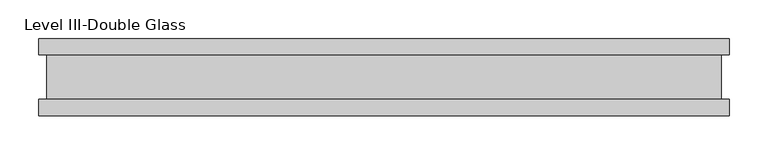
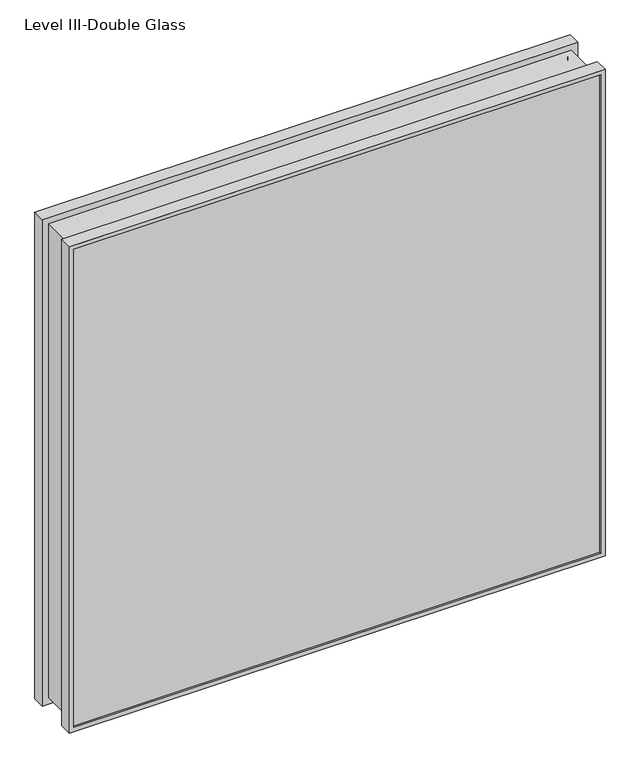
"""IFC4 building model written with IfcOpenShell, lengths in millimetres: proxy geometry, Panel-Fascia-Teknion-Altos-Double_Glass : Level III-Double Glass."""

from ifc_helpers import new_model, si_unit, frame, origin, place, context, project, spatial, polyline, ellipse_curve, outline, extrude, source, transform, mapped, element, save
from ifc_brep_helpers import plane_surface, cylinder_surface, advanced_brep


def level_iii_double_glass_eeb2d2af(model_context):
    return source(origin(), model_context, "Body", "SolidModel", [
        advanced_brep(
        [(447.6253906, -50.0558594, 862.965), (447.6253906, -50.0558594, 3.175), (447.6253906, -28.2698798, 3.175), (447.6253906, -28.2698798, 862.965), (440.1901828, -47.1322551, 855.5297922), (440.1901828, -47.1322551, 10.6102078), (440.1901828, -50.0558594, 10.6102078), (440.1901828, -50.0558594, 855.5297922), (445.4728643, -41.1791301, 860.8124737), (445.4728643, -41.1791301, 5.3275263), (445.4728643, -47.1322551, 5.3275263), (445.4728643, -47.1322551, 860.8124737), (439.6679752, 40.9277344, 855.0075845), (439.6679752, 40.9277344, 11.1324155), (439.6679752, -41.1791301, 11.1324155), (439.6679752, -41.1791301, 855.0075845), (445.4728643, 46.8808594, 860.8124737), (445.4728643, 46.8808594, 5.3275263), (445.4728643, 40.9277344, 5.3275263), (445.4728643, 40.9277344, 860.8124737), (440.1901828, 50.0558594, 855.5297922), (440.1901828, 50.0558594, 10.6102078), (440.1901828, 46.8808594, 10.6102078), (440.1901828, 46.8808594, 855.5297922), (447.6253906, 28.8801202, 862.965), (447.6253906, 28.8801202, 3.175), (447.6253906, 50.0558594, 3.175), (447.6253906, 50.0558594, 862.965), (436.7735493, -28.2698798, 852.1131586), (436.7735493, -28.2698798, 14.0268414), (436.7735493, 28.8801202, 14.0268414), (436.7735493, 28.8801202, 852.1131586), (-447.6253906, -50.0558594, 3.175), (-447.6253906, -28.2698798, 3.175), (-440.1901828, -47.1322551, 10.6102078), (-440.1901828, -50.0558594, 10.6102078), (-445.4728643, -41.1791301, 5.3275263), (-445.4728643, -47.1322551, 5.3275263), (-439.6679752, 40.9277344, 11.1324155), (-439.6679752, -41.1791301, 11.1324155), (-445.4728643, 46.8808594, 5.3275263), (-445.4728643, 40.9277344, 5.3275263), (-440.1901828, 50.0558594, 10.6102078), (-440.1901828, 46.8808594, 10.6102078), (-447.6253906, 28.8801202, 3.175), (-447.6253906, 50.0558594, 3.175), (-436.7735493, -28.2698798, 14.0268414), (-436.7735493, 28.8801202, 14.0268414), (-447.6253906, -50.0558594, 862.965), (-447.6253906, -28.2698798, 862.965), (-440.1901828, -47.1322551, 855.5297922), (-440.1901828, -50.0558594, 855.5297922), (-445.4728643, -41.1791301, 860.8124737), (-445.4728643, -47.1322551, 860.8124737), (-439.6679752, 40.9277344, 855.0075845), (-439.6679752, -41.1791301, 855.0075845), (-445.4728643, 46.8808594, 860.8124737), (-445.4728643, 40.9277344, 860.8124737), (-440.1901828, 50.0558594, 855.5297922), (-440.1901828, 46.8808594, 855.5297922), (-447.6253906, 28.8801202, 862.965), (-447.6253906, 50.0558594, 862.965), (-436.7735493, -28.2698798, 852.1131586), (-436.7735493, 28.8801202, 852.1131586)],
        [
            (0, 1),
            (1, 2),
            (2, 3),
            (3, 0),
            (4, 5),
            (5, 6),
            (6, 7),
            (7, 4),
            (8, 9),
            (9, 10),
            (10, 11),
            (11, 8),
            (12, 13),
            (13, 14, ellipse_curve(frame((479.0538175, -0.1256979, -28.2534268), z_axis=(0.7071067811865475, 0.0, 0.7071067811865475), x_axis=(-0.7071067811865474, 0.0, 0.7071067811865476)), 80.4565581, 56.8913778)),
            (14, 15),
            (15, 12, ellipse_curve(frame((479.0538175, -0.1256979, 894.3934268), z_axis=(0.7071067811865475, 0.0, -0.7071067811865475), x_axis=(0.7071067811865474, 0.0, 0.7071067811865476)), 80.4565581, 56.8913778)),
            (16, 17),
            (17, 18),
            (18, 19),
            (19, 16),
            (20, 21),
            (21, 22),
            (22, 23),
            (23, 20),
            (24, 25),
            (25, 26),
            (26, 27),
            (27, 24),
            (28, 29),
            (29, 30),
            (30, 31),
            (31, 28),
            (1, 32),
            (32, 33),
            (33, 2),
            (5, 34),
            (34, 35),
            (35, 6),
            (9, 36),
            (36, 37),
            (37, 10),
            (13, 38),
            (38, 39, ellipse_curve(frame((-479.0538175, -0.1256979, -28.2534268), z_axis=(0.7071067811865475, 0.0, -0.7071067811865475), x_axis=(0.7071067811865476, 0.0, 0.7071067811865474)), 80.4565581, 56.8913778)),
            (39, 14),
            (17, 40),
            (40, 41),
            (41, 18),
            (21, 42),
            (42, 43),
            (43, 22),
            (25, 44),
            (44, 45),
            (45, 26),
            (29, 46),
            (46, 47),
            (47, 30),
            (32, 48),
            (48, 49),
            (49, 33),
            (34, 50),
            (50, 51),
            (51, 35),
            (36, 52),
            (52, 53),
            (53, 37),
            (38, 54),
            (54, 55, ellipse_curve(frame((-479.0538175, -0.1256979, 894.3934268), z_axis=(-0.7071067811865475, 0.0, -0.7071067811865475), x_axis=(0.7071067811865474, 0.0, -0.7071067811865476)), 80.4565581, 56.8913778)),
            (55, 39),
            (40, 56),
            (56, 57),
            (57, 41),
            (42, 58),
            (58, 59),
            (59, 43),
            (44, 60),
            (60, 61),
            (61, 45),
            (46, 62),
            (62, 63),
            (63, 47),
            (48, 0),
            (3, 49),
            (51, 7),
            (50, 4),
            (53, 11),
            (52, 8),
            (55, 15),
            (54, 12),
            (57, 19),
            (56, 16),
            (59, 23),
            (58, 20),
            (61, 27),
            (60, 24),
            (63, 31),
            (62, 28),
        ],
        [
            plane_surface(frame((447.6253906, -28.2698798, 862.965), z_axis=(1.0, 0.0, 0.0), x_axis=(0.0, 0.0, -1.0))),
            plane_surface(frame((440.1901828, -50.0558594, 855.5297922), z_axis=(-1.0, 0.0, 0.0), x_axis=(0.0, 0.0, -1.0))),
            plane_surface(frame((445.4728643, -47.1322551, 860.8124737), z_axis=(-1.0, 0.0, 0.0), x_axis=(0.0, 0.0, -1.0))),
            cylinder_surface(frame((479.0538175, -0.1256979, 862.965), z_axis=(0.0, 0.0, 1.0), x_axis=(1.0, 0.0, 0.0)), 56.8913778),
            plane_surface(frame((445.4728643, 40.9277344, 860.8124737), z_axis=(-1.0, 0.0, 0.0), x_axis=(0.0, 0.0, -1.0))),
            plane_surface(frame((440.1901828, 46.8808594, 855.5297922), z_axis=(-1.0, 0.0, 0.0), x_axis=(0.0, 0.0, -1.0))),
            plane_surface(frame((447.6253906, 50.0558594, 862.965), z_axis=(1.0, 0.0, 0.0), x_axis=(0.0, 0.0, -1.0))),
            plane_surface(frame((436.7735493, 28.8801202, 852.1131586), z_axis=(1.0, 0.0, 0.0), x_axis=(0.0, 0.0, -1.0))),
            plane_surface(frame((447.6253906, -28.2698798, 3.175), z_axis=(0.0, 0.0, -1.0), x_axis=(-1.0, 0.0, 0.0))),
            plane_surface(frame((440.1901828, -50.0558594, 10.6102078), z_axis=(0.0, 0.0, 1.0), x_axis=(-1.0, 0.0, 0.0))),
            plane_surface(frame((445.4728643, -47.1322551, 5.3275263), z_axis=(0.0, 0.0, 1.0), x_axis=(-1.0, 0.0, 0.0))),
            cylinder_surface(frame((447.6253906, -0.1256979, -28.2534268), z_axis=(1.0, 0.0, 0.0), x_axis=(0.0, 0.0, -1.0)), 56.8913778),
            plane_surface(frame((445.4728643, 40.9277344, 5.3275263), z_axis=(0.0, 0.0, 1.0), x_axis=(-1.0, 0.0, 0.0))),
            plane_surface(frame((440.1901828, 46.8808594, 10.6102078), z_axis=(0.0, 0.0, 1.0), x_axis=(-1.0, 0.0, 0.0))),
            plane_surface(frame((447.6253906, 50.0558594, 3.175), z_axis=(0.0, 0.0, -1.0), x_axis=(-1.0, 0.0, 0.0))),
            plane_surface(frame((436.7735493, 28.8801202, 14.0268414), z_axis=(0.0, 0.0, -1.0), x_axis=(-1.0, 0.0, 0.0))),
            plane_surface(frame((-447.6253906, -28.2698798, 3.175), z_axis=(-1.0, 0.0, 0.0), x_axis=(0.0, 0.0, 1.0))),
            plane_surface(frame((-440.1901828, -50.0558594, 10.6102078), z_axis=(1.0, 0.0, 0.0), x_axis=(0.0, 0.0, 1.0))),
            plane_surface(frame((-445.4728643, -47.1322551, 5.3275263), z_axis=(1.0, 0.0, 0.0), x_axis=(0.0, 0.0, 1.0))),
            cylinder_surface(frame((-479.0538175, -0.1256979, 3.175), z_axis=(0.0, 0.0, -1.0), x_axis=(-1.0, 0.0, 0.0)), 56.8913778),
            plane_surface(frame((-445.4728643, 40.9277344, 5.3275263), z_axis=(1.0, 0.0, 0.0), x_axis=(0.0, 0.0, 1.0))),
            plane_surface(frame((-440.1901828, 46.8808594, 10.6102078), z_axis=(1.0, 0.0, 0.0), x_axis=(0.0, 0.0, 1.0))),
            plane_surface(frame((-447.6253906, 50.0558594, 3.175), z_axis=(-1.0, 0.0, 0.0), x_axis=(0.0, 0.0, 1.0))),
            plane_surface(frame((-436.7735493, 28.8801202, 14.0268414), z_axis=(-1.0, 0.0, 0.0), x_axis=(0.0, 0.0, 1.0))),
            plane_surface(frame((-447.6253906, -28.2698798, 862.965), z_axis=(0.0, 0.0, 1.0), x_axis=(1.0, 0.0, 0.0))),
            plane_surface(frame((-447.6253906, -50.0558594, 862.965), z_axis=(0.0, -1.0, 0.0), x_axis=(1.0, 0.0, 0.0))),
            plane_surface(frame((-440.1901828, -50.0558594, 855.5297922), z_axis=(0.0, 0.0, -1.0), x_axis=(1.0, 0.0, 0.0))),
            plane_surface(frame((-440.1901828, -47.1322551, 855.5297922), z_axis=(0.0, 1.0, 0.0), x_axis=(1.0, 0.0, 0.0))),
            plane_surface(frame((-445.4728643, -47.1322551, 860.8124737), z_axis=(0.0, 0.0, -1.0), x_axis=(1.0, 0.0, 0.0))),
            plane_surface(frame((-445.4728643, -41.1791301, 860.8124737), z_axis=(0.0, -1.0, 0.0), x_axis=(1.0, 0.0, 0.0))),
            cylinder_surface(frame((-447.6253906, -0.1256979, 894.3934268), z_axis=(-1.0, 0.0, 0.0), x_axis=(0.0, 0.0, 1.0)), 56.8913778),
            plane_surface(frame((-439.6679752, 40.9277344, 855.0075845), z_axis=(0.0, 1.0, 0.0), x_axis=(1.0, 0.0, 0.0))),
            plane_surface(frame((-445.4728643, 40.9277344, 860.8124737), z_axis=(0.0, 0.0, -1.0), x_axis=(1.0, 0.0, 0.0))),
            plane_surface(frame((-445.4728643, 46.8808594, 860.8124737), z_axis=(0.0, -1.0, 0.0), x_axis=(1.0, 0.0, 0.0))),
            plane_surface(frame((-440.1901828, 46.8808594, 855.5297922), z_axis=(0.0, 0.0, -1.0), x_axis=(1.0, 0.0, 0.0))),
            plane_surface(frame((-440.1901828, 50.0558594, 855.5297922), z_axis=(0.0, 1.0, 0.0), x_axis=(1.0, 0.0, 0.0))),
            plane_surface(frame((-447.6253906, 50.0558594, 862.965), z_axis=(0.0, 0.0, 1.0), x_axis=(1.0, 0.0, 0.0))),
            plane_surface(frame((-447.6253906, 28.8801202, 862.965), z_axis=(0.0, -1.0, 0.0), x_axis=(1.0, 0.0, 0.0))),
            plane_surface(frame((-436.7735493, 28.8801202, 852.1131586), z_axis=(0.0, 0.0, 1.0), x_axis=(1.0, 0.0, 0.0))),
            plane_surface(frame((-436.7735493, -28.2698798, 852.1131586), z_axis=(0.0, 1.0, 0.0), x_axis=(1.0, 0.0, 0.0))),
        ],
        [
            (0, [[1, 2, 3, 4]]),
            (1, [[5, 6, 7, 8]]),
            (2, [[9, 10, 11, 12]]),
            (3, [[13, 14, 15, 16]]),
            (4, [[17, 18, 19, 20]]),
            (5, [[21, 22, 23, 24]]),
            (6, [[25, 26, 27, 28]]),
            (7, [[29, 30, 31, 32]]),
            (8, [[33, 34, 35, -2]]),
            (9, [[36, 37, 38, -6]]),
            (10, [[39, 40, 41, -10]]),
            (11, [[42, 43, 44, -14]]),
            (12, [[45, 46, 47, -18]]),
            (13, [[48, 49, 50, -22]]),
            (14, [[51, 52, 53, -26]]),
            (15, [[54, 55, 56, -30]]),
            (16, [[57, 58, 59, -34]]),
            (17, [[60, 61, 62, -37]]),
            (18, [[63, 64, 65, -40]]),
            (19, [[66, 67, 68, -43]]),
            (20, [[69, 70, 71, -46]]),
            (21, [[72, 73, 74, -49]]),
            (22, [[75, 76, 77, -52]]),
            (23, [[78, 79, 80, -55]]),
            (24, [[81, -4, 82, -58]]),
            (25, [[-1, -81, -57, -33], [-7, -38, -62, 83]]),
            (26, [[84, -8, -83, -61]]),
            (27, [[-11, -41, -65, 85], [-5, -84, -60, -36]]),
            (28, [[86, -12, -85, -64]]),
            (29, [[-9, -86, -63, -39], [-15, -44, -68, 87]]),
            (30, [[88, -16, -87, -67]]),
            (31, [[-19, -47, -71, 89], [-13, -88, -66, -42]]),
            (32, [[90, -20, -89, -70]]),
            (33, [[-17, -90, -69, -45], [-23, -50, -74, 91]]),
            (34, [[92, -24, -91, -73]]),
            (35, [[-27, -53, -77, 93], [-21, -92, -72, -48]]),
            (36, [[94, -28, -93, -76]]),
            (37, [[-25, -94, -75, -51], [-31, -56, -80, 95]]),
            (38, [[96, -32, -95, -79]]),
            (39, [[-3, -35, -59, -82], [-29, -96, -78, -54]]),
        ],
    ),
        extrude(outline(polyline([(445.4728643, 40.9277344), (-445.4728643, 40.9277344), (-445.4728643, 46.8808594), (445.4728643, 46.8808594), (445.4728643, 40.9277344)])), frame((0.0, 0.0, 5.3275263), z_axis=(0.0, 0.0, 1.0), x_axis=(1.0, 0.0, 0.0)), (0.0, 0.0, 1.0), 854.990928),
        extrude(outline(polyline([(445.4728643, -41.1791301), (445.4728643, -47.1322551), (-445.4728643, -47.1322551), (-445.4728643, -41.1791301), (445.4728643, -41.1791301)])), frame((0.0, 0.0, 5.3275263), z_axis=(0.0, 0.0, 1.0), x_axis=(1.0, 0.0, 0.0)), (0.0, 0.0, 1.0), 854.990928),
    ])


if __name__ == "__main__":
    model = new_model("IFC4")
    model_context = context("Model", 3, world=origin())
    ifc_project = project(units=[si_unit("LENGTHUNIT", "METRE", prefix="MILLI")], contexts=[model_context])
    site = spatial("IfcSite", under=ifc_project)
    building = spatial("IfcBuilding", under=site)
    placement = place(None, origin())
    level_iii_double_glass_shape = level_iii_double_glass_eeb2d2af(model_context)
    element("IfcBuildingElementProxy", 1, Name="Panel-Fascia-Teknion-Altos-Double_Glass : Level III-Double Glass", ObjectType="Panel-Fascia-Teknion-Altos-Double_Glass : Level III-Double Glass", at=placement, inside=building, context=model_context, shape_type="MappedRepresentation", body=[
        mapped(level_iii_double_glass_shape, transform((0.0, 0.0, 0.0), x_axis=(1.0, 0.0, 0.0), y_axis=(0.0, 1.0, 0.0), z_axis=(0.0, 0.0, 1.0))),
    ])
    save(model, "model.ifc")
